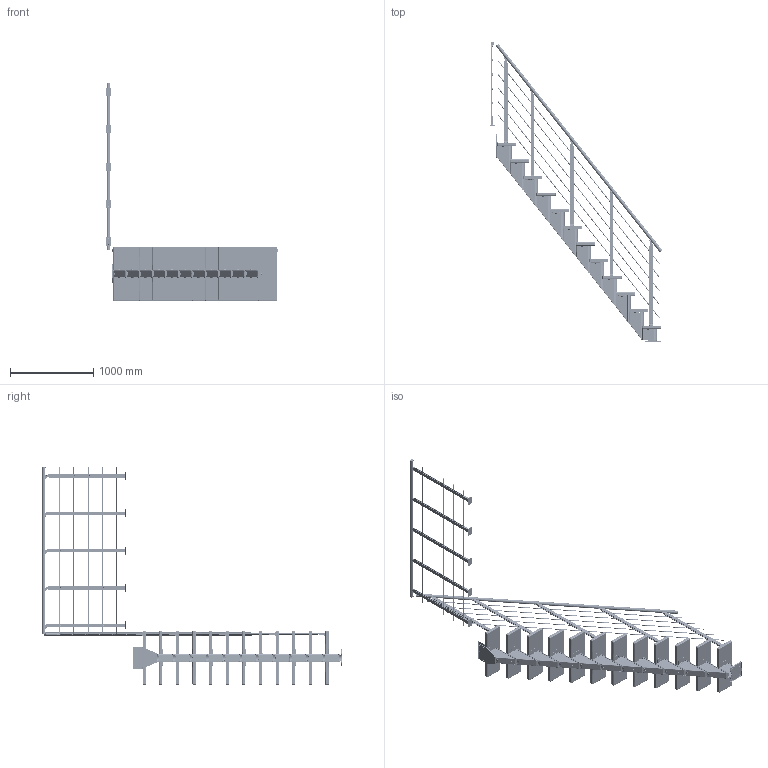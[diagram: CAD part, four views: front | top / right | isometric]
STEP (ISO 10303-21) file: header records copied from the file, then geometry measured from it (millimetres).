
FILE_DESCRIPTION (( 'STEP AP214' ), '1' );
FILE_NAME ('5462 - FRANKFURT ligeløb DESIGN gelænder.STEP', '2021-09-03T09:30:23', ( '' ), ( '' ), 'SwSTEP 2.0', 'SolidWorks 2019', '' );
FILE_SCHEMA (( 'AUTOMOTIVE_DESIGN' ));
Length unit declared in the file: millimetre
Products named in the file (126): K1-1077705; R3-91415_R3-91415; K3-10452; M2-1078905; K2-1077705_K2-1077707; K1-34020___; K2-1077700_K2-1077702; K1-34030; K3-08023; M2-1078301; K3-08023-1; K3-06338; 5083766; R1-63500_R1-63500; K2-1077730; K1-18049; K2-1077735_90ø; K1-1077070_K1-1077072; K1-34011; K1-1077701; K1-29920; K1-1077720_Welded; K3-04001_M10 DIN 125 - A ; WIRE Ø10^5083766_03; K2-1077425_K2-1077427; K1-1077400_K1-1077402; K2-1077712_Left; K2-1077420_K2-1077422; K2-1077725; H2-20506; K1-1077727; K1-1077706; K3-06007___; K1-34031; 1077480-01_03; K1-1077710; K1-1077411; K1-1077002; 1077725; K1-1077730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
Assembly tree (433 placements, depth 5):
  5462 - FRANKFURT ligeløb DESIGN gelænder
    5083766
      1077480-01_03
        K2-1077420_K2-1077422
          K1-34031
          K1-34030
          K1-1077002
        K2-1077425_K2-1077427
          K1-34031
          K1-34030
        K2-1077425_K2-1077427
          K1-34031
          K1-34030
        K2-1077425_K2-1077427
          K1-34031
          K1-34030
        K2-1077425_K2-1077427
          K1-34031
          K1-34030
        K2-1077425_K2-1077427
          K1-34031
          K1-34030
        K2-1077425_K2-1077427
          K1-34031
          K1-34030
        K2-1077425_K2-1077427
          K1-34031
          K1-34030
        K2-1077425_K2-1077427
          K1-34031
          K1-34030
        K2-1077425_K2-1077427
          K1-34031
          K1-34030
        K2-1077425_K2-1077427
          K1-34031
          K1-34030
        K2-1077430_K2-1077432
          K1-34021
          K1-34020___
          K1-1077411
        K2-1077440_K2-1077442
          K1-34010
          K1-34011
        K1-1077400_K1-1077402
        K1-1077070_K1-1077072
        H2-20505  x11
        H2-20506  x11
        R1-63500_R1-63500  x11
        K3-04053_K3-04053  x12
        K3-03021_ISO4032
      M2-1078300
      M2-1078301  x11
      K2-1077712_Left
        K2-1077700_K2-1077702
          K1-1077701
          K1-1077700
        K2-1077705_K2-1077707
          K1-1077705
          K1-1077706  x5
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Bounding box: 2079.96 x 3611.66 x 2620 mm (x, y, z)
Volume: 88514278.7 mm3; surface area: 12871680.9 mm2
Topology: 367 solids, 367 shells, 9646 faces, 21964 edges, 13042 vertices
Faces by surface type: plane 3498, cylinder 2899, cone 2214, bspline 639, torus 396
Entity records: 67270 total; most frequent: CARTESIAN_POINT 26581, DIRECTION 7638, ORIENTED_EDGE 6844, EDGE_CURVE 3422, AXIS2_PLACEMENT_3D 3011, VERTEX_POINT 2096, EDGE_LOOP 1636, VECTOR 1616
